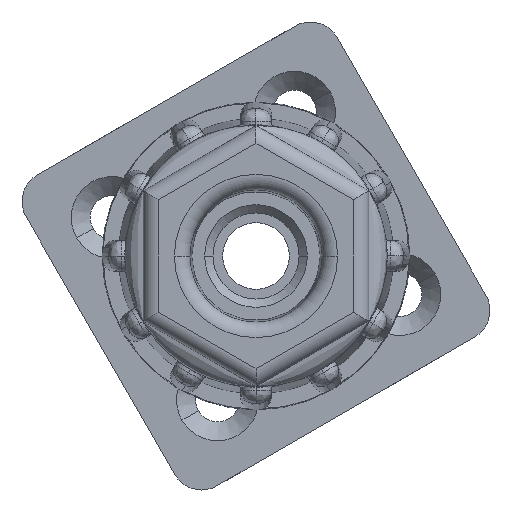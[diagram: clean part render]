
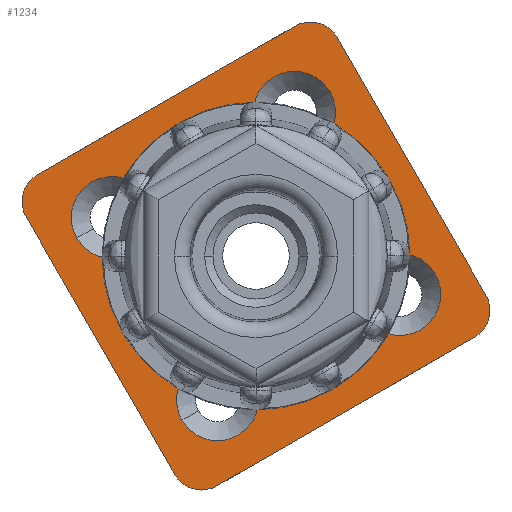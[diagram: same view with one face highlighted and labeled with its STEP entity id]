
A CAD part, front view. The second image highlights one B-rep face of the part: STEP entity #1234.
In plain terms, the highlighted planar face has unit normal (0, -1, 0).
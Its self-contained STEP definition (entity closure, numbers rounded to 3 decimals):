
#1234=ADVANCED_FACE('NONE',(#2515,#2516,#2517,#2518,#2519,#2520),#2521,.F.);
#2515=FACE_OUTER_BOUND('',#5657,.T.);
#2516=FACE_BOUND('',#5658,.T.);
#2517=FACE_BOUND('',#5659,.T.);
#2518=FACE_BOUND('',#5660,.T.);
#2519=FACE_BOUND('',#5661,.T.);
#2520=FACE_BOUND('',#5662,.T.);
#2521=PLANE('',#5663);
#5657=EDGE_LOOP('',(#9120,#9121,#9122,#9123,#9124,#9125,#9126,#9127));
#5658=EDGE_LOOP('',(#9128,#9129));
#5659=EDGE_LOOP('',(#9130,#9131));
#5660=EDGE_LOOP('',(#9132,#9133));
#5661=EDGE_LOOP('',(#9134,#9135));
#5662=EDGE_LOOP('',(#9136,#9137));
#5663=AXIS2_PLACEMENT_3D('',#9138,#9139,#9140);
#9120=ORIENTED_EDGE('',*,*,#11054,.T.);
#9121=ORIENTED_EDGE('',*,*,#11061,.T.);
#9122=ORIENTED_EDGE('',*,*,#11057,.T.);
#9123=ORIENTED_EDGE('',*,*,#11062,.T.);
#9124=ORIENTED_EDGE('',*,*,#10990,.T.);
#9125=ORIENTED_EDGE('',*,*,#11063,.T.);
#9126=ORIENTED_EDGE('',*,*,#11047,.T.);
#9127=ORIENTED_EDGE('',*,*,#11064,.T.);
#9128=ORIENTED_EDGE('',*,*,#10919,.T.);
#9129=ORIENTED_EDGE('',*,*,#11065,.T.);
#9130=ORIENTED_EDGE('',*,*,#10914,.T.);
#9131=ORIENTED_EDGE('',*,*,#11066,.T.);
#9132=ORIENTED_EDGE('',*,*,#10909,.T.);
#9133=ORIENTED_EDGE('',*,*,#11067,.T.);
#9134=ORIENTED_EDGE('',*,*,#10904,.T.);
#9135=ORIENTED_EDGE('',*,*,#11068,.T.);
#9136=ORIENTED_EDGE('',*,*,#10949,.F.);
#9137=ORIENTED_EDGE('',*,*,#11069,.F.);
#9138=CARTESIAN_POINT('',(-23.905,0.7,6.405));
#9139=DIRECTION('',(0.,1.0,0.));
#9140=DIRECTION('',(0.5,0.,-0.866));
#10904=EDGE_CURVE('NONE',#13031,#13028,#13032,.T.);
#10909=EDGE_CURVE('NONE',#13040,#13037,#13041,.T.);
#10914=EDGE_CURVE('NONE',#13049,#13046,#13050,.T.);
#10919=EDGE_CURVE('NONE',#13058,#13055,#13059,.T.);
#10949=EDGE_CURVE('NONE',#13105,#13108,#13109,.T.);
#10990=EDGE_CURVE('NONE',#13177,#13175,#13178,.T.);
#11047=EDGE_CURVE('NONE',#13267,#13268,#13269,.T.);
#11054=EDGE_CURVE('NONE',#13277,#13275,#13278,.T.);
#11057=EDGE_CURVE('NONE',#13281,#13282,#13283,.T.);
#11061=EDGE_CURVE('NONE',#13275,#13281,#13287,.T.);
#11062=EDGE_CURVE('NONE',#13282,#13177,#13288,.T.);
#11063=EDGE_CURVE('NONE',#13175,#13267,#13289,.T.);
#11064=EDGE_CURVE('NONE',#13268,#13277,#13290,.T.);
#11065=EDGE_CURVE('NONE',#13055,#13058,#13291,.T.);
#11066=EDGE_CURVE('NONE',#13046,#13049,#13292,.T.);
#11067=EDGE_CURVE('NONE',#13037,#13040,#13293,.T.);
#11068=EDGE_CURVE('NONE',#13028,#13031,#13294,.T.);
#11069=EDGE_CURVE('NONE',#13108,#13105,#13295,.T.);
#13028=VERTEX_POINT('',#18206);
#13031=VERTEX_POINT('NONE',#18210);
#13032=CIRCLE('',#18211,4.);
#13037=VERTEX_POINT('',#18217);
#13040=VERTEX_POINT('NONE',#18221);
#13041=CIRCLE('',#18222,4.);
#13046=VERTEX_POINT('',#18228);
#13049=VERTEX_POINT('NONE',#18232);
#13050=CIRCLE('',#18233,4.);
#13055=VERTEX_POINT('',#18239);
#13058=VERTEX_POINT('NONE',#18243);
#13059=CIRCLE('',#18244,4.);
#13105=VERTEX_POINT('NONE',#18323);
#13108=VERTEX_POINT('',#18327);
#13109=CIRCLE('',#18328,10.);
#13175=VERTEX_POINT('NONE',#18470);
#13177=VERTEX_POINT('NONE',#18473);
#13178=LINE('',#18474,#18475);
#13267=VERTEX_POINT('NONE',#18617);
#13268=VERTEX_POINT('NONE',#18618);
#13269=LINE('',#18619,#18620);
#13275=VERTEX_POINT('NONE',#18630);
#13277=VERTEX_POINT('NONE',#18633);
#13278=LINE('',#18634,#18635);
#13281=VERTEX_POINT('NONE',#18639);
#13282=VERTEX_POINT('NONE',#18640);
#13283=LINE('',#18641,#18642);
#13287=CIRCLE('',#18648,3.0);
#13288=CIRCLE('',#18649,3.0);
#13289=CIRCLE('',#18650,3.0);
#13290=CIRCLE('',#18651,3.0);
#13291=CIRCLE('',#18652,4.);
#13292=CIRCLE('',#18653,4.);
#13293=CIRCLE('',#18654,4.);
#13294=CIRCLE('',#18655,4.);
#13295=CIRCLE('',#18656,10.);
#18206=CARTESIAN_POINT('',(7.216,0.7,16.002));
#18210=CARTESIAN_POINT('',(0.288,0.7,12.002));
#18211=AXIS2_PLACEMENT_3D('',#19979,#19980,#19981);
#18217=CARTESIAN_POINT('',(-10.538,0.7,5.752));
#18221=CARTESIAN_POINT('',(-17.466,0.7,1.752));
#18222=AXIS2_PLACEMENT_3D('',#19987,#19988,#19989);
#18228=CARTESIAN_POINT('',(17.466,0.7,-1.752));
#18232=CARTESIAN_POINT('',(10.538,0.7,-5.752));
#18233=AXIS2_PLACEMENT_3D('',#19995,#19996,#19997);
#18239=CARTESIAN_POINT('',(-0.288,0.7,-12.002));
#18243=CARTESIAN_POINT('',(-7.216,0.7,-16.002));
#18244=AXIS2_PLACEMENT_3D('',#20003,#20004,#20005);
#18323=CARTESIAN_POINT('',(8.66,0.7,5.0));
#18327=CARTESIAN_POINT('',(-8.66,0.7,-5.));
#18328=AXIS2_PLACEMENT_3D('',#20041,#20042,#20043);
#18470=CARTESIAN_POINT('',(-21.307,0.7,7.905));
#18473=CARTESIAN_POINT('',(3.807,0.7,22.405));
#18474=CARTESIAN_POINT('',(-23.905,0.7,6.405));
#18475=VECTOR('',#20094,1000.0);
#18617=CARTESIAN_POINT('',(-22.405,0.7,3.807));
#18618=CARTESIAN_POINT('',(-7.905,0.7,-21.307));
#18619=CARTESIAN_POINT('',(-6.405,0.7,-23.905));
#18620=VECTOR('',#20169,1000.0);
#18630=CARTESIAN_POINT('',(21.307,0.7,-7.905));
#18633=CARTESIAN_POINT('',(-3.807,0.7,-22.405));
#18634=CARTESIAN_POINT('',(-6.405,0.7,-23.905));
#18635=VECTOR('',#20175,1000.0);
#18639=CARTESIAN_POINT('',(22.405,0.7,-3.807));
#18640=CARTESIAN_POINT('',(7.905,0.7,21.307));
#18641=CARTESIAN_POINT('',(23.905,0.7,-6.405));
#18642=VECTOR('',#20177,1000.0);
#18648=AXIS2_PLACEMENT_3D('',#20180,#20181,#20182);
#18649=AXIS2_PLACEMENT_3D('',#20183,#20184,#20185);
#18650=AXIS2_PLACEMENT_3D('',#20186,#20187,#20188);
#18651=AXIS2_PLACEMENT_3D('',#20189,#20190,#20191);
#18652=AXIS2_PLACEMENT_3D('',#20192,#20193,#20194);
#18653=AXIS2_PLACEMENT_3D('',#20195,#20196,#20197);
#18654=AXIS2_PLACEMENT_3D('',#20198,#20199,#20200);
#18655=AXIS2_PLACEMENT_3D('',#20201,#20202,#20203);
#18656=AXIS2_PLACEMENT_3D('',#20204,#20205,#20206);
#19979=CARTESIAN_POINT('',(3.752,0.7,14.002));
#19980=DIRECTION('',(0.,1.0,0.));
#19981=DIRECTION('',(-0.866,0.,-0.5));
#19987=CARTESIAN_POINT('',(-14.002,0.7,3.752));
#19988=DIRECTION('',(0.,1.0,0.));
#19989=DIRECTION('',(-0.866,0.,-0.5));
#19995=CARTESIAN_POINT('',(14.002,0.7,-3.752));
#19996=DIRECTION('',(0.,1.0,0.));
#19997=DIRECTION('',(-0.866,0.,-0.5));
#20003=CARTESIAN_POINT('',(-3.752,0.7,-14.002));
#20004=DIRECTION('',(0.,1.0,0.));
#20005=DIRECTION('',(-0.866,0.,-0.5));
#20041=CARTESIAN_POINT('',(0.,0.7,0.));
#20042=DIRECTION('',(0.,-1.0,0.));
#20043=DIRECTION('',(0.866,0.,0.5));
#20094=DIRECTION('',(-0.866,0.,-0.5));
#20169=DIRECTION('',(0.5,0.,-0.866));
#20175=DIRECTION('',(0.866,0.,0.5));
#20177=DIRECTION('',(-0.5,0.,0.866));
#20180=CARTESIAN_POINT('',(19.807,0.7,-5.307));
#20181=DIRECTION('',(0.,-1.0,0.));
#20182=DIRECTION('',(-0.866,0.,-0.5));
#20183=CARTESIAN_POINT('',(5.307,0.7,19.807));
#20184=DIRECTION('',(0.,-1.0,0.));
#20185=DIRECTION('',(-0.866,0.,-0.5));
#20186=CARTESIAN_POINT('',(-19.807,0.7,5.307));
#20187=DIRECTION('',(0.,-1.0,0.));
#20188=DIRECTION('',(-0.866,0.,-0.5));
#20189=CARTESIAN_POINT('',(-5.307,0.7,-19.807));
#20190=DIRECTION('',(0.,-1.0,0.));
#20191=DIRECTION('',(-0.866,0.,-0.5));
#20192=CARTESIAN_POINT('',(-3.752,0.7,-14.002));
#20193=DIRECTION('',(0.,1.0,0.));
#20194=DIRECTION('',(-0.866,0.,-0.5));
#20195=CARTESIAN_POINT('',(14.002,0.7,-3.752));
#20196=DIRECTION('',(0.,1.0,0.));
#20197=DIRECTION('',(-0.866,0.,-0.5));
#20198=CARTESIAN_POINT('',(-14.002,0.7,3.752));
#20199=DIRECTION('',(0.,1.0,0.));
#20200=DIRECTION('',(-0.866,0.,-0.5));
#20201=CARTESIAN_POINT('',(3.752,0.7,14.002));
#20202=DIRECTION('',(0.,1.0,0.));
#20203=DIRECTION('',(-0.866,0.,-0.5));
#20204=CARTESIAN_POINT('',(0.,0.7,0.));
#20205=DIRECTION('',(0.,-1.0,0.));
#20206=DIRECTION('',(0.866,0.,0.5));
